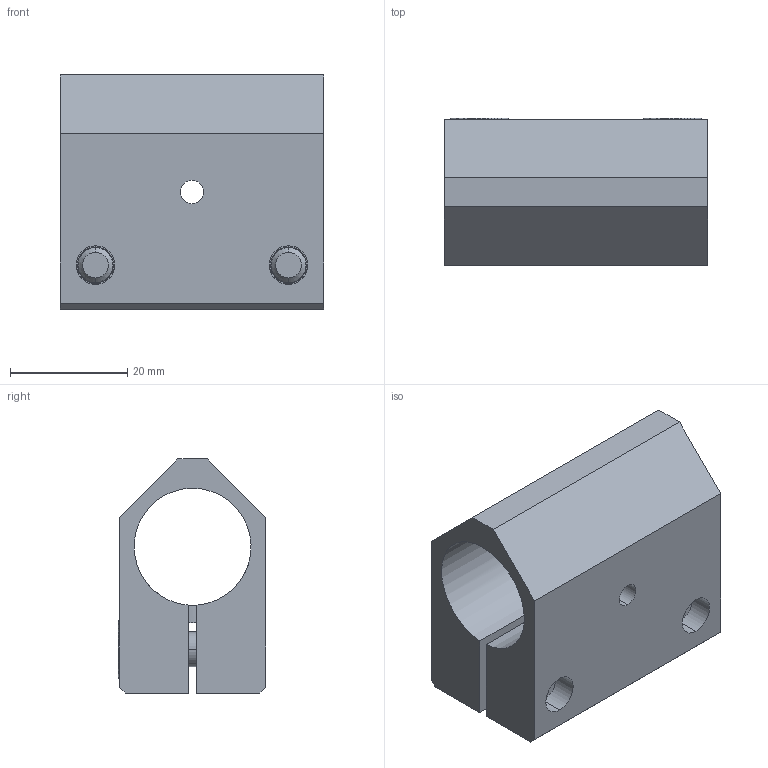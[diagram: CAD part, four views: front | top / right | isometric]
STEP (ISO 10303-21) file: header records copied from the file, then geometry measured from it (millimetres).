
FILE_DESCRIPTION (( 'STEP AP214' ), '1' );
FILE_NAME ('SMBF-2020.STEP', '2019-11-06T05:53:12', ( '微软用户' ), ( '微软中国' ), 'SwSTEP 2.0', 'SolidWorks 2016', '' );
FILE_SCHEMA (( 'AUTOMOTIVE_DESIGN' ));
Length unit declared in the file: millimetre
Products named in the file (1): SMBF-2020
Bounding box: 45 x 25.2 x 40 mm (x, y, z)
Volume: 21226.9 mm3; surface area: 13231.9 mm2
Topology: 5 solids, 5 shells, 380 faces, 1098 edges, 728 vertices
Faces by surface type: plane 326, cylinder 38, cone 12, bspline 4
Entity records: 17022 total; most frequent: CARTESIAN_POINT 2415, DIRECTION 2214, ORIENTED_EDGE 2196, EDGE_CURVE 1098, AXIS2_PLACEMENT_3D 755, VERTEX_POINT 728, VECTOR 704, LINE 704
